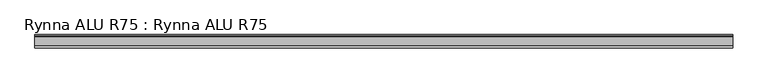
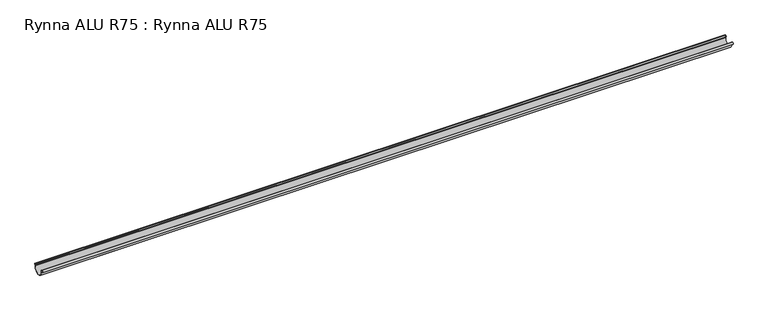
"""IFC4 building model written with IfcOpenShell, lengths in millimetres: proxy geometry, Rynna ALU R75 : Rynna ALU R75."""

from ifc_helpers import new_model, si_unit, point, frame, frame_2d, origin, place, context, project, spatial, polyline, circle_curve, trimmed, segment, composite_curve, outline, extrude, source, transform, mapped, element, save


def rynna_alu_r75_rynna_alu_r75_d7d200d3(model_context):
    return source(origin(), model_context, "Body", "SweptSolid", [
        extrude(outline(composite_curve([segment(polyline([(-77.0000001, -18.8928858), (-77.0000001, -9.298839)]), True, "CONTINUOUS"), segment(trimmed(circle_curve(frame_2d((-83.065591, -8.6518374)), 6.1000004), [point((-77.0000001, -9.298839))], [point((-86.1676128, -13.9042145))], True, "CARTESIAN"), True, "CONTINUOUS"), segment(polyline([(-86.1676128, -13.9042145), (-86.1676128, -15.0383413)]), True, "CONTINUOUS"), segment(trimmed(circle_curve(frame_2d((-83.0655965, -8.651839)), 7.0999941), [point((-86.1676128, -15.0383413))], [point((-76.0000118, -9.3500002))], False, "CARTESIAN"), True, "CONTINUOUS"), segment(polyline([(-76.0000118, -9.3500002), (-76.0000118, -18.8754102)]), True, "CONTINUOUS"), segment(trimmed(circle_curve(frame_2d((-39.5000101, -18.8754102)), 36.5000017), [point((-76.0000118, -18.8754102))], [point((-3.0000084, -18.8754102))], True, "CARTESIAN"), True, "CONTINUOUS"), segment(polyline([(-3.0000084, -18.8754102), (-1.1093439, -0.9821469)]), True, "CONTINUOUS"), segment(trimmed(circle_curve(frame_2d((-0.8393369, -17.5562346)), 16.5762868), [point((-1.1093439, -0.9821469))], [point((-4.8989693, -1.4847483))], True, "CARTESIAN"), True, "CONTINUOUS"), segment(polyline([(-4.8989693, -1.4847483), (-10.02274, -6.608519), (-10.7298468, -5.9014122), (-5.4142136, -0.585779)]), True, "CONTINUOUS"), segment(trimmed(circle_curve(frame_2d((-0.8393369, -17.5562346)), 17.5762868), [point((-5.4142136, -0.585779))], [point((0.0, 0.0))], False, "CARTESIAN"), True, "CONTINUOUS"), segment(polyline([(0.0, 0.0), (-2.0, -18.8928858)]), True, "CONTINUOUS"), segment(trimmed(circle_curve(frame_2d((-39.5, -18.8928858)), 37.5), [point((-2.0, -18.8928858))], [point((-77.0000001, -18.8928858))], False, "CARTESIAN"), True, "CONTINUOUS")], self_intersect=False)), frame((-2315.8855873, 0.0, 0.0), z_axis=(1.0, 0.0, 0.0), x_axis=(0.0, 1.0, 0.0)), (0.0, 0.0, 1.0), 4631.7711746),
    ])


if __name__ == "__main__":
    model = new_model("IFC4")
    model_context = context("Model", 3, world=origin())
    ifc_project = project(units=[si_unit("LENGTHUNIT", "METRE", prefix="MILLI")], contexts=[model_context])
    site = spatial("IfcSite", under=ifc_project)
    building = spatial("IfcBuilding", under=site)
    placement = place(None, origin())
    rynna_alu_r75_rynna_alu_r75_shape = rynna_alu_r75_rynna_alu_r75_d7d200d3(model_context)
    element("IfcBuildingElementProxy", 1, Name="Rynna ALU R75 : Rynna ALU R75", ObjectType="Rynna ALU R75 : Rynna ALU R75", at=placement, inside=building, context=model_context, shape_type="MappedRepresentation", body=[
        mapped(rynna_alu_r75_rynna_alu_r75_shape, transform((0.0, 0.0, 0.0), x_axis=(1.0, 0.0, 0.0), y_axis=(0.0, 1.0, 0.0), z_axis=(0.0, 0.0, 1.0))),
    ])
    save(model, "model.ifc")
